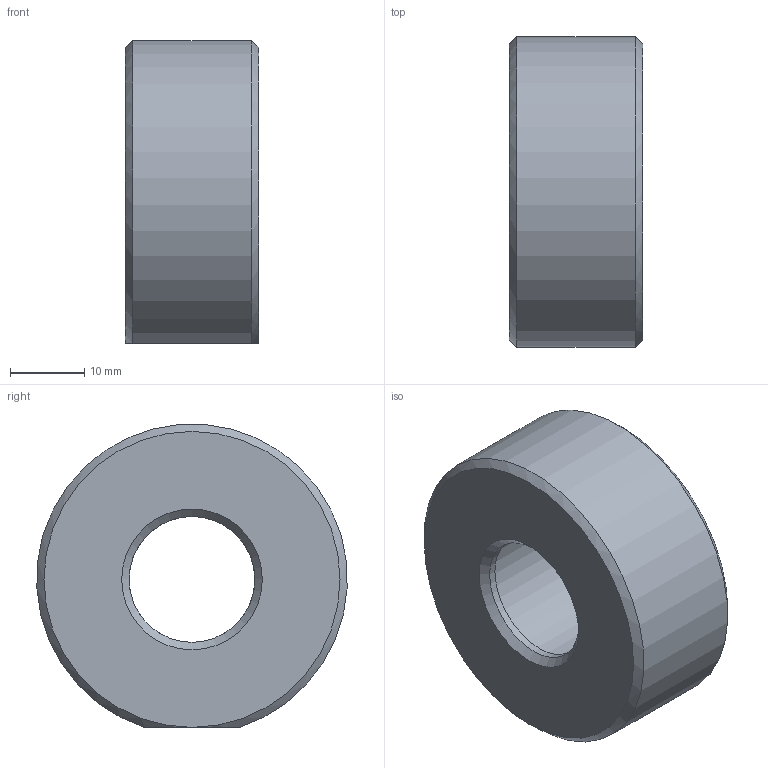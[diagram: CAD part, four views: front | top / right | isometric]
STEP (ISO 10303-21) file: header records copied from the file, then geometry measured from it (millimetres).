
FILE_DESCRIPTION((''),'2;1');
FILE_NAME('S:\1規格品図面ﾃﾞｰﾀ\OpticalHard\02_海外製品\2_Holders\LHF\LHF-20UU\LHF-20UU.stp','2007-09-12T17:13:07',('okegawa'),(''),'Autodesk Inventor 11','Autodesk Inventor 11','');
FILE_SCHEMA(('AUTOMOTIVE_DESIGN { 1 0 10303 214 1 1 1 1 }'));
Length unit declared in the file: millimetre
Products named in the file (1): LHF-20UU-C1-S01
Bounding box: 18 x 41.93 x 40.92 mm (x, y, z)
Volume: 19435.1 mm3; surface area: 5846.5 mm2
Topology: 1 solids, 1 shells, 40 faces, 94 edges, 60 vertices
Faces by surface type: plane 18, bspline 15, cylinder 4, cone 3
Full cylindrical faces by diameter (mm): 17 x2
Entity records: 1231 total; most frequent: CARTESIAN_POINT 372, DIRECTION 170, ORIENTED_EDGE 164, EDGE_CURVE 82, AXIS2_PLACEMENT_3D 66, VERTEX_POINT 56, EDGE_LOOP 54, CIRCLE 40
